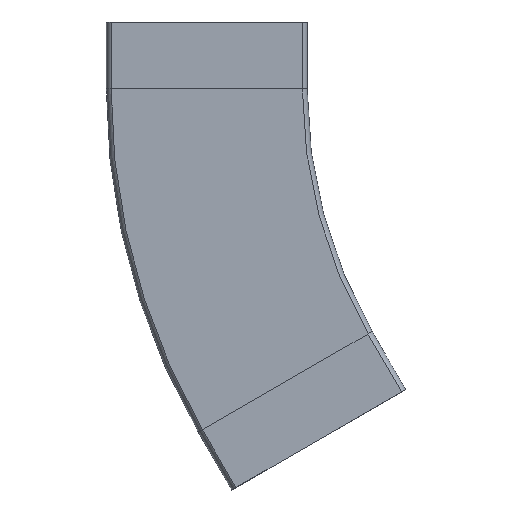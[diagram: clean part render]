
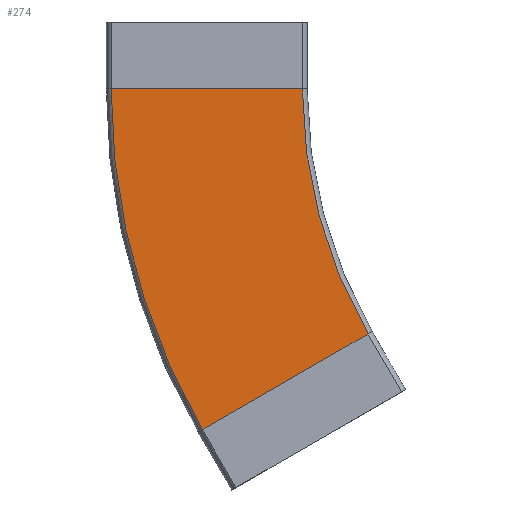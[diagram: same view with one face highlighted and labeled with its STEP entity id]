
A CAD part, front view. The second image highlights one B-rep face of the part: STEP entity #274.
In plain terms, the highlighted planar face has unit normal (0, -1, 0).
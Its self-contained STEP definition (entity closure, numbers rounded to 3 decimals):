
#58 = CIRCLE ( 'NONE', #5114, 292.85 ) ;
#66 = CARTESIAN_POINT ( 'NONE',  ( 96.384, -56.5, -186.425 ) ) ;
#245 = VECTOR ( 'NONE', #5478, 1000. ) ;
#274 = ADVANCED_FACE ( 'NONE', ( #1080 ), #3357, .F. ) ;
#348 = CARTESIAN_POINT ( 'NONE',  ( 350., -56.5, -40. ) ) ;
#468 = DIRECTION ( 'NONE',  ( -1., 0., 0. ) ) ;
#583 = EDGE_CURVE ( 'NONE', #4131, #3817, #5435, .T. ) ;
#836 = CARTESIAN_POINT ( 'NONE',  ( 0., -56.5, -40. ) ) ;
#903 = DIRECTION ( 'NONE',  ( 0., 1., 0. ) ) ;
#975 = ORIENTED_EDGE ( 'NONE', *, *, #583, .F. ) ;
#1080 = FACE_OUTER_BOUND ( 'NONE', #3234, .T. ) ;
#1187 = DIRECTION ( 'NONE',  ( 0., 1., 0. ) ) ;
#1289 = CARTESIAN_POINT ( 'NONE',  ( -2.602, -56.5, -243.575 ) ) ;
#1313 = CARTESIAN_POINT ( 'NONE',  ( -57.15, -56.5, -40. ) ) ;
#1355 = LINE ( 'NONE', #4181, #245 ) ;
#1567 = EDGE_CURVE ( 'NONE', #2206, #3817, #2891, .T. ) ;
#1665 = CARTESIAN_POINT ( 'NONE',  ( 350., -56.5, -40. ) ) ;
#1673 = DIRECTION ( 'NONE',  ( 0., 1., 0. ) ) ;
#1684 = VERTEX_POINT ( 'NONE', #66 ) ;
#2114 = CARTESIAN_POINT ( 'NONE',  ( 96.384, -56.5, -186.425 ) ) ;
#2206 = VERTEX_POINT ( 'NONE', #3985 ) ;
#2215 = ORIENTED_EDGE ( 'NONE', *, *, #3592, .T. ) ;
#2229 = ORIENTED_EDGE ( 'NONE', *, *, #1567, .T. ) ;
#2523 = DIRECTION ( 'NONE',  ( 0., 0., 1. ) ) ;
#2891 = LINE ( 'NONE', #836, #3704 ) ;
#3234 = EDGE_LOOP ( 'NONE', ( #2229, #975, #5064, #2215 ) ) ;
#3357 = PLANE ( 'NONE',  #3637 ) ;
#3505 = DIRECTION ( 'NONE',  ( 0., 0., 1. ) ) ;
#3592 = EDGE_CURVE ( 'NONE', #1684, #2206, #58, .T. ) ;
#3637 = AXIS2_PLACEMENT_3D ( 'NONE', #2114, #903, #3505 ) ;
#3704 = VECTOR ( 'NONE', #468, 1000. ) ;
#3817 = VERTEX_POINT ( 'NONE', #1313 ) ;
#3985 = CARTESIAN_POINT ( 'NONE',  ( 57.15, -56.5, -40. ) ) ;
#4131 = VERTEX_POINT ( 'NONE', #1289 ) ;
#4181 = CARTESIAN_POINT ( 'NONE',  ( 96.384, -56.5, -186.425 ) ) ;
#4488 = EDGE_CURVE ( 'NONE', #4131, #1684, #1355, .T. ) ;
#5064 = ORIENTED_EDGE ( 'NONE', *, *, #4488, .T. ) ;
#5114 = AXIS2_PLACEMENT_3D ( 'NONE', #348, #1673, #5580 ) ;
#5435 = CIRCLE ( 'NONE', #5652, 407.15 ) ;
#5478 = DIRECTION ( 'NONE',  ( 0.866, 0., 0.5 ) ) ;
#5580 = DIRECTION ( 'NONE',  ( 0., 0., 1. ) ) ;
#5652 = AXIS2_PLACEMENT_3D ( 'NONE', #1665, #1187, #2523 ) ;
